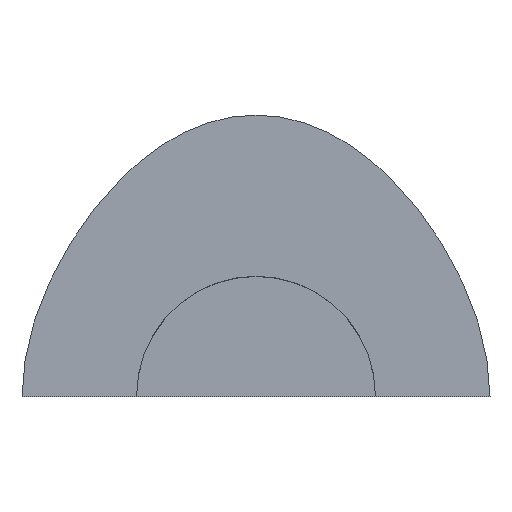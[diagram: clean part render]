
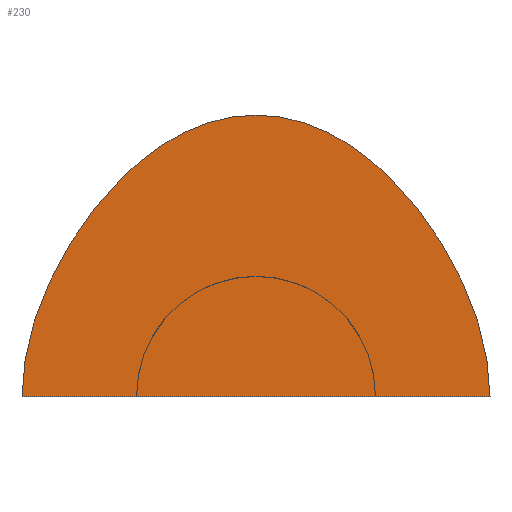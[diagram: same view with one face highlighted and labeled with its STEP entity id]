
A CAD part, top view. The second image highlights one B-rep face of the part: STEP entity #230.
In plain terms, the highlighted planar face has unit normal (0, 0, 1).
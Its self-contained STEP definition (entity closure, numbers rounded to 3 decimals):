
#193=CARTESIAN_POINT('Axis2P3D Location',(0.,47.834,0.)) ;
#198=CARTESIAN_POINT('Line Origine',(0.,0.,0.)) ;
#202=CARTESIAN_POINT('Vertex',(-98.,0.,0.)) ;
#204=CARTESIAN_POINT('Vertex',(98.,0.,0.)) ;
#208=CARTESIAN_POINT('Control Point',(0.,118.,0.)) ;
#209=CARTESIAN_POINT('Control Point',(30.678,118.,0.)) ;
#210=CARTESIAN_POINT('Control Point',(59.012,100.004,0.)) ;
#211=CARTESIAN_POINT('Control Point',(85.004,64.012,0.)) ;
#212=CARTESIAN_POINT('Control Point',(98.,30.678,0.)) ;
#213=CARTESIAN_POINT('Control Point',(98.,0.,0.)) ;
#214=CARTESIAN_POINT('Vertex',(0.,118.,0.)) ;
#218=CARTESIAN_POINT('Control Point',(0.,118.,0.)) ;
#219=CARTESIAN_POINT('Control Point',(-30.678,118.,0.)) ;
#220=CARTESIAN_POINT('Control Point',(-59.012,100.004,0.)) ;
#221=CARTESIAN_POINT('Control Point',(-85.004,64.012,0.)) ;
#222=CARTESIAN_POINT('Control Point',(-98.,30.678,0.)) ;
#223=CARTESIAN_POINT('Control Point',(-98.,0.,0.)) ;
#194=DIRECTION('Axis2P3D Direction',(0.,0.,1.)) ;
#195=DIRECTION('Axis2P3D XDirection',(1.,0.,0.)) ;
#199=DIRECTION('Vector Direction',(1.,0.,0.)) ;
#196=AXIS2_PLACEMENT_3D('Plane Axis2P3D',#193,#194,#195) ;
#226=ORIENTED_EDGE('',*,*,#206,.T.) ;
#227=ORIENTED_EDGE('',*,*,#216,.T.) ;
#228=ORIENTED_EDGE('',*,*,#224,.T.) ;
#200=VECTOR('Line Direction',#199,1.) ;
#230=ADVANCED_FACE('Fill.1',(#229),#197,.T.) ;
#207=B_SPLINE_CURVE_WITH_KNOTS('',5,(#208,#209,#210,#211,#212,#213),.UNSPECIFIED.,.F.,.U.,(6,6),(0.,153.388),.UNSPECIFIED.) ;
#217=B_SPLINE_CURVE_WITH_KNOTS('',5,(#218,#219,#220,#221,#222,#223),.UNSPECIFIED.,.F.,.U.,(6,6),(0.,153.388),.UNSPECIFIED.) ;
#206=EDGE_CURVE('',#203,#205,#201,.T.) ;
#216=EDGE_CURVE('',#205,#215,#207,.F.) ;
#224=EDGE_CURVE('',#215,#203,#217,.T.) ;
#225=EDGE_LOOP('',(#226,#227,#228)) ;
#229=FACE_OUTER_BOUND('',#225,.T.) ;
#201=LINE('Line',#198,#200) ;
#197=PLANE('',#196) ;
#203=VERTEX_POINT('',#202) ;
#205=VERTEX_POINT('',#204) ;
#215=VERTEX_POINT('',#214) ;
